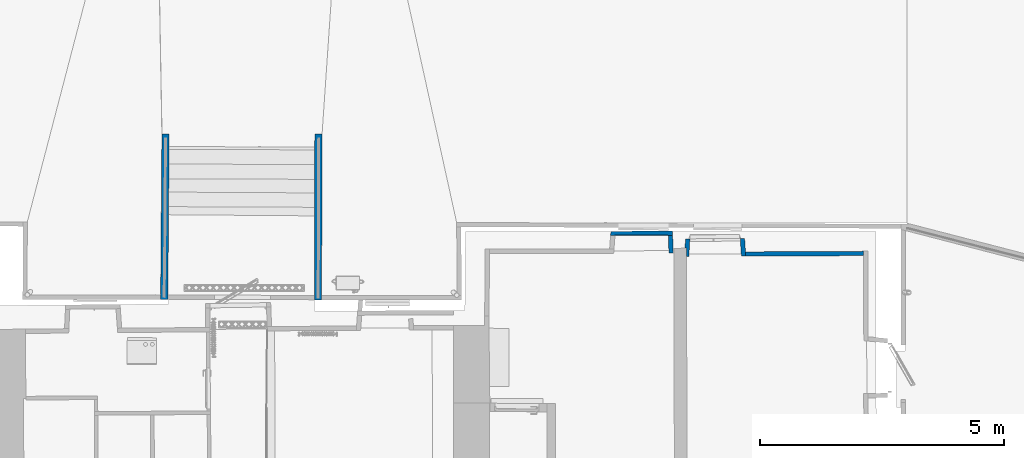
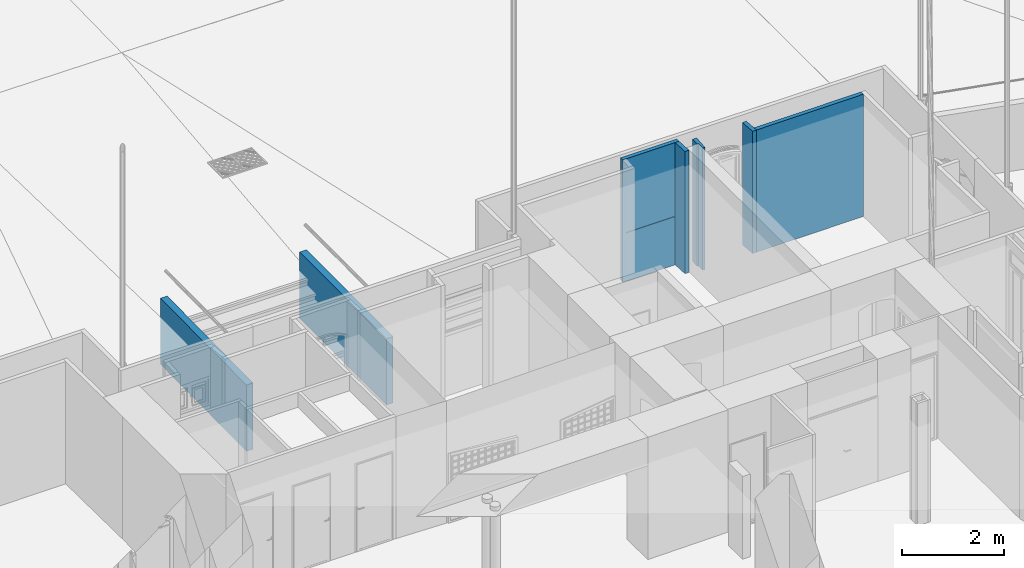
# One storey, part 29 of 133: 7 walls, 1 opening.
"""IFC2X3 building model written with IfcOpenShell, lengths in centimetres."""

from ifc_helpers import new_model, entity, si_unit, converted_unit, direction, frame, origin, origin_with_axes, origin_2d_with_axis, place, context, subcontext, project, spatial, polyline, rectangle, outline, extrude, faceted_brep, shape, material, layer, layer_set, layer_usage, type_object, element, save


model = new_model("IFC2X3")

# Units and contexts
model_context = context("Model", 3, precision=0.0001, world=origin(), true_north=direction((0.225632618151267, 0.974212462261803, 0.0)))
body_context = subcontext(model_context, "Body", "Model", "MODEL_VIEW")
footprint_context = subcontext(model_context, "FootPrint", "Model", "MODEL_VIEW")
profile_context = subcontext(model_context, "Profile", "Model", "MODEL_VIEW")
ifc_project = project(units=[si_unit("LENGTHUNIT", "METRE", prefix="CENTI"), si_unit("AREAUNIT", "SQUARE_METRE", prefix="CENTI"), si_unit("VOLUMEUNIT", "CUBIC_METRE", prefix="CENTI"), converted_unit("PLANEANGLEUNIT", "DEGREE", entity("IfcRatioMeasure", 0.0174532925), si_unit("PLANEANGLEUNIT", "RADIAN"), dimensions=[0, 0, 0, 0, 0, 0, 0])], contexts=[model_context])

# Site, building, storey
site_placement = place(None, origin_with_axes())
site = spatial("IfcSite", under=ifc_project, at=site_placement, Name="Default Site", CompositionType="ELEMENT")
building_placement = place(site_placement, origin_with_axes())
building = spatial("IfcBuilding", under=site, at=building_placement, Name="Default Building", CompositionType="ELEMENT")
storey_placement = place(building_placement, frame((0.0, 0.0, -291.400371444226), z_axis=(0.0, 0.0, 1.0), x_axis=(1.0, 0.0, 0.0)))
storey = spatial("IfcBuildingStorey", under=building, at=storey_placement, Name="Rez-de-Jardin", CompositionType="ELEMENT", Elevation=-291.400371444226)

# Wall, opening
ifc_material = material(Name="<aucun>")
ifc_layer_1 = layer(ifc_material, 9.0)
ifc_layer_set_1 = layer_set([ifc_layer_1], Name="default")
ifc_layer_usage_1 = layer_usage(ifc_layer_set_1, "AXIS2", "POSITIVE", -4.5)
wall_type_1 = type_object("IfcWallType", Name="default 90", PredefinedType="NOTDEFINED", material=ifc_layer_set_1)
wall_1_placement = place(storey_placement, frame((558.069520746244, 745.765818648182, -1.94511073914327e-11), z_axis=(0.0, 0.0, 1.0), x_axis=(0.999998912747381, 0.00147461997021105, 0.0)))
wall_1 = element("IfcWallStandardCase", 1, at=wall_1_placement, inside=storey, type_object=wall_type_1, material=ifc_layer_usage_1, Name="Enveloppe 589720", context=body_context, shape_type="SweptSolid", body=[
    extrude(outline(polyline([(-4.79332700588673, -3.8430022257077), (4.18266062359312, -4.49999999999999), (113.505544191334, -4.49999999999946), (122.498823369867, -4.15225064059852), (122.164260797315, 4.50000000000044), (-4.18266062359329, 4.49999999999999), (-4.79332700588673, -3.8430022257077)])), frame((0.0, 0.0, 8.88178419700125e-14), z_axis=(0.0, 0.0, 1.0), x_axis=(1.0, 0.0, 0.0)), (0.0, 0.0, 1.0), 291.413221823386),
])
opening_placement = place(wall_1_placement, frame((3.19452758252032, 0.0, 115.102026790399), z_axis=(0.0, 0.0, 1.0), x_axis=(-1.0, -3.51454976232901e-15, 0.0)))
cartesian_point_1 = entity("IfcCartesianPoint", [0.0, -8.88178419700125e-14, 113.0])
cartesian_point_2 = entity("IfcCartesianPoint", [-110.311016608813, -8.88178419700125e-14, 113.0])
cartesian_point_3 = entity("IfcCartesianPoint", [-110.311016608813, -4.50000000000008])
element("IfcOpeningElement", 2, at=opening_placement, cuts=wall_1, Name="Baie 78426", ObjectType="Recess", shapes=[
    shape(body_context, "Body", "Brep", [faceted_brep([(-9.30543802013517e-06, 24.4999947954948, 5.18561149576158e-07), (-13.3797407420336, 24.4999947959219, 5.18561149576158e-07), (-13.3797407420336, 24.4999947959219, 113.000000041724), (-9.30543802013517e-06, 24.4999947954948, 113.000000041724), (-13.3797407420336, 24.4999947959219, 117.439002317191), (-13.3797407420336, 24.4999837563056, 5.18561149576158e-07), (-27.1091848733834, 24.4999837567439, 5.18561149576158e-07), (-27.1091848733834, 24.4999837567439, 117.439002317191), (-13.3797407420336, 24.4999837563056, 117.439002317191), (-27.1091848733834, 24.4999837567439, 120.636529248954), (-27.1091848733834, 24.5000115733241, 5.18561149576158e-07), (-41.0733762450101, 24.5000115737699, 5.18561149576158e-07), (-41.0733762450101, 24.5000115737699, 120.636529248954), (-27.1091848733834, 24.5000115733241, 120.636529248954), (-41.0733762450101, 24.5000115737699, 122.565818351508), (-41.0733762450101, 24.5000040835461, 5.18561149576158e-07), (-55.1554895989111, 24.5000040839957, 5.18561149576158e-07), (-55.1554895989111, 24.5000040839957, 122.565818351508), (-41.0733762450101, 24.5000040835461, 122.565818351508), (-55.1554895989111, 24.5000040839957, 123.210710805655), (-55.1554895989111, 24.4999797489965, 5.18561149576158e-07), (-69.2376028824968, 24.499979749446, 5.18561149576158e-07), (-69.2376028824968, 24.499979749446, 122.565818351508), (-55.1554895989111, 24.4999797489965, 122.565818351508), (-55.1554895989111, 24.4999797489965, 123.210710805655), (-69.2376028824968, 24.5000030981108, 5.18561149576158e-07), (-83.2018419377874, 24.5000030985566, 5.18561149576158e-07), (-83.2018419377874, 24.5000030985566, 120.636529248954), (-69.2376028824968, 24.5000030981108, 120.636529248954), (-69.2376028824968, 24.5000030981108, 122.565818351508), (-83.2018419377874, 24.4999956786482, 5.18561149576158e-07), (-96.9312860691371, 24.4999956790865, 5.18561149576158e-07), (-96.9312860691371, 24.4999956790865, 117.439002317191), (-83.2018419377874, 24.4999956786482, 117.439002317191), (-83.2018419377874, 24.4999956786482, 120.636529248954), (-96.9312860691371, 24.5000234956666, 5.18561149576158e-07), (-110.311017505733, 24.5000234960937, 5.18561149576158e-07), (-110.311017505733, 24.5000234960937, 113.000000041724), (-96.9312860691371, 24.5000234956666, 113.000000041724), (-96.9312860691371, 24.5000234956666, 117.439002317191), (-9.30610838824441e-06, 3.50001579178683, 113.000000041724), (-9.30610838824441e-06, 3.50001579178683, 5.18561149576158e-07), (1.8121461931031e-05, 3.50001579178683, 5.18561149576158e-07), (-110.311037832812, 3.49998583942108, 5.18561149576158e-07), (-110.311017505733, 24.5000124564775, 5.18561149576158e-07), (-110.311017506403, 3.49998583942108, 5.18561149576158e-07), (-110.311017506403, 3.49998583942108, 113.000000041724), (-110.311017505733, 24.5000124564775, 113.000000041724), (-110.311035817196, 3.49998583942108, 112.999993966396), (-96.9313046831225, 3.49999687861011, 117.438997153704), (-96.9312863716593, 24.5000234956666, 117.439003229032), (-96.9313053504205, 3.49999687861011, 117.438997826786), (-83.2018614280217, 3.5000167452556, 120.636525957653), (-83.2018422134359, 24.4999956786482, 120.636530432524), (-83.2018618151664, 3.5000167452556, 120.636526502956), (-69.2376227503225, 3.49997648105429, 122.56581502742), (-69.2376028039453, 24.5000030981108, 122.56581778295), (-69.2376231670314, 3.49997648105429, 122.565817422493), (-55.1555099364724, 3.50000081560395, 123.210712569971), (-55.1554897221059, 24.4999797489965, 123.210713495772), (-55.1555098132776, 3.50000081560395, 123.210711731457), (-41.0733966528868, 3.49997746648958, 122.565816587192), (-41.0733763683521, 24.5000040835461, 122.565815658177), (-41.0733961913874, 3.49997746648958, 122.565821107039), (-27.1091570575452, 3.49998488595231, 120.636532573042), (-27.1091839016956, 24.5000115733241, 120.636536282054), (-27.109158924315, 3.49998488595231, 120.636523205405), (-13.3797150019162, 3.5000047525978, 117.438995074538), (-13.379741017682, 24.4999837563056, 117.439001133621), (-13.3797160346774, 3.5000047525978, 117.438994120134), (1.50993960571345e-05, 3.50001579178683, 112.999990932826), (-9.60796018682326e-06, 24.4999947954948, 112.999999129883), (-13.3797133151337, 3.5000047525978, 117.439002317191), (-27.1091575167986, 3.50000475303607, 120.636529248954), (-41.0733965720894, 3.50000475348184, 122.565818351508), (-55.155509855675, 3.50000475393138, 123.210710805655), (-69.237623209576, 3.50000475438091, 122.565818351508), (-83.2018621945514, 3.50000475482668, 120.636529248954), (-96.9313063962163, 3.50000475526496, 117.439002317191), (-110.311037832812, 3.50000475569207, 113.000000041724), (-110.311037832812, 3.50000475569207, 5.18561149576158e-07), (1.81214619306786e-05, 3.50000475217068, 5.18561149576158e-07), (1.81214619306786e-05, 3.50000475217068, 113.000000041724)], [[[0, 1, 2, 3]], [[3, 2, 4]], [[5, 6, 7, 8]], [[8, 7, 9]], [[10, 11, 12, 13]], [[13, 12, 14]], [[15, 16, 17, 18]], [[18, 17, 19]], [[20, 21, 22, 23]], [[23, 22, 24]], [[25, 26, 27, 28]], [[28, 27, 29]], [[30, 31, 32, 33]], [[33, 32, 34]], [[35, 36, 37, 38]], [[38, 37, 39]], [[3, 40, 41, 0]], [[0, 42, 43, 44]], [[44, 45, 46, 47]], [[47, 48, 49, 50]], [[39, 51, 52, 53]], [[34, 54, 55, 56]], [[29, 57, 58, 59]], [[24, 60, 61, 62]], [[18, 63, 64, 65]], [[13, 66, 67, 68]], [[8, 69, 70, 71]], [[72, 73, 74, 75, 76, 77, 78, 79, 80, 81, 82]]])]),
    shape(profile_context, "Profile", "GeometricCurveSet", [entity("IfcGeometricCurveSet", [entity("IfcCompositeCurve", [entity("IfcCompositeCurveSegment", "CONTINUOUS", True, entity("IfcPolyline", [cartesian_point_1, entity("IfcCartesianPoint", [0.0, -8.88178419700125e-14, -2.22044604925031e-14]), entity("IfcCartesianPoint", [-110.311016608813, -8.88178419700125e-14, -2.22044604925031e-14]), cartesian_point_2])), entity("IfcCompositeCurveSegment", "CONTINUOUS", True, entity("IfcTrimmedCurve", entity("IfcCircle", entity("IfcAxis2Placement3D", entity("IfcCartesianPoint", [-55.1555083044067, 0.0, -30.8622344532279]), entity("IfcDirection", [0.0, 1.0, -8.6984970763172e-15]), entity("IfcDirection", [1.0, 0.0, 0.0])), 154.072945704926), [cartesian_point_2], [cartesian_point_1], True, "CARTESIAN"))], False)])]),
    shape(footprint_context, "FootPrint", "GeometricCurveSet", [entity("IfcGeometricCurveSet", [entity("IfcPolyline", [cartesian_point_3, entity("IfcCartesianPoint", [0.0, -4.50000000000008]), entity("IfcCartesianPoint", [0.0, 4.4999999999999]), entity("IfcCartesianPoint", [-110.311016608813, 4.49999999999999]), cartesian_point_3])])]),
])

# Walls
ifc_layer_usage_2 = layer_usage(ifc_layer_set_1, "AXIS2", "POSITIVE", -4.5)
wall_2_placement = place(storey_placement, frame((709.404934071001, 698.726264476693, -1.94511073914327e-11), z_axis=(0.0, 0.0, 1.0), x_axis=(0.0613919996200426, 0.998113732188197, 0.0)))
element("IfcWallStandardCase", 3, at=wall_2_placement, inside=storey, type_object=wall_type_1, material=ifc_layer_usage_2, Name="Enveloppe 589975", context=body_context, shape_type="SweptSolid", body=[
    extrude(outline(polyline([(16.7931576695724, 4.50000000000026), (16.7931576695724, 1.38505617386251), (-1.77635683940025e-13, 0.310418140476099), (-1.77635683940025e-13, -4.50000000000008), (36.0799113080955, -4.49999999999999), (35.4799113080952, 4.50000000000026), (16.7931576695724, 4.50000000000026)])), frame((0.0, 0.0, 1.33226762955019e-13), z_axis=(0.0, 0.0, 1.0), x_axis=(1.0, 0.0, 0.0)), (0.0, 0.0, 1.0), 291.413221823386),
])
ifc_layer_usage_3 = layer_usage(ifc_layer_set_1, "AXIS2", "POSITIVE", -4.5)
wall_3_placement = place(storey_placement, frame((677.523077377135, 705.615798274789, -1.94511073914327e-11), z_axis=(0.0, 0.0, 1.0), x_axis=(-0.0401122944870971, 0.999195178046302, 0.0)))
element("IfcWallStandardCase", 4, at=wall_3_placement, inside=storey, type_object=wall_type_1, material=ifc_layer_usage_3, Name="Enveloppe 589719", context=body_context, shape_type="SweptSolid", body=[
    extrude(rectangle(XDim=9.00000000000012, YDim=36.0269033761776, at=origin_2d_with_axis()), frame((18.0134516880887, -8.88178419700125e-14, 8.88178419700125e-14), z_axis=(0.0, 0.0, 1.0), x_axis=(9.46465128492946e-15, -1.0, 0.0)), (0.0, 0.0, 1.0), 291.413221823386),
])
ifc_layer_usage_4 = layer_usage(ifc_layer_set_1, "AXIS2", "POSITIVE", -4.5)
wall_4_placement = place(storey_placement, frame((821.746974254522, 703.499941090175, -1.94511073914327e-11), z_axis=(0.0, 0.0, 1.0), x_axis=(0.999986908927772, 0.00511683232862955, 0.0)))
element("IfcWallStandardCase", 5, at=wall_4_placement, inside=storey, type_object=wall_type_1, material=ifc_layer_usage_4, Name="Enveloppe 588678", context=body_context, shape_type="SweptSolid", body=[
    extrude(outline(polyline([(8.4740070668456, 4.50000000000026), (9.01413176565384, -4.49999999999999), (250.532606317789, -4.4999999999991), (250.541996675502, 4.50000000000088), (8.4740070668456, 4.50000000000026)])), frame((0.0, 0.0, 1.33226762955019e-13), z_axis=(0.0, 0.0, 1.0), x_axis=(1.0, 0.0, 0.0)), (0.0, 0.0, 1.0), 291.413221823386),
])
ifc_layer_usage_5 = layer_usage(ifc_layer_set_1, "AXIS2", "POSITIVE", -4.5)
wall_5_placement = place(storey_placement, frame((826.258144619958, 699.296755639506, -1.94511073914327e-11), z_axis=(0.0, 0.0, 1.0), x_axis=(-0.0650129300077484, 0.997884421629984, 0.0)))
element("IfcWallStandardCase", 6, at=wall_5_placement, inside=storey, type_object=wall_type_1, material=ifc_layer_usage_5, Name="Enveloppe 588365", context=body_context, shape_type="SweptSolid", body=[
    extrude(outline(polyline([(36.0647269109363, 4.49999999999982), (-0.00421692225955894, 4.49999999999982), (-0.54434162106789, -4.49999999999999), (36.0647269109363, -4.50000000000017), (36.0647269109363, 4.49999999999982)])), frame((0.0, 0.0, 4.44089209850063e-14), z_axis=(0.0, 0.0, 1.0), x_axis=(1.0, 0.0, 0.0)), (0.0, 0.0, 1.0), 291.413221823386),
])
ifc_layer_2 = layer(ifc_material, 15.0)
ifc_layer_set_2 = layer_set([ifc_layer_2], Name="default")
ifc_layer_usage_6 = layer_usage(ifc_layer_set_2, "AXIS2", "POSITIVE", -7.5)
wall_type_2 = type_object("IfcWallType", Name="default 150", PredefinedType="NOTDEFINED", material=ifc_layer_set_2)
wall_6_placement = place(storey_placement, frame((-47.4894028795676, 617.916405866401, -1.94511073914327e-11), z_axis=(0.0, 0.0, 1.0), x_axis=(0.00294412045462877, 0.999995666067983, 0.0)))
element("IfcWallStandardCase", 7, at=wall_6_placement, inside=storey, type_object=wall_type_2, material=ifc_layer_usage_6, Name="Enveloppe 92070", context=body_context, shape_type="SweptSolid", body=[
    extrude(rectangle(XDim=340.663453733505, YDim=15.0000019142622, at=origin_2d_with_axis()), frame((162.07084697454, -6.10622663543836e-13, 1.33226762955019e-13), z_axis=(0.0, 0.0, 1.0), x_axis=(1.0, -3.76565098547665e-15, 0.0)), (0.0, 0.0, 1.0), 157.900371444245),
])
ifc_layer_usage_7 = layer_usage(ifc_layer_set_2, "AXIS2", "POSITIVE", -7.5)
wall_7_placement = place(storey_placement, frame((-362.984407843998, 619.038968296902, -1.94511073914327e-11), z_axis=(0.0, 0.0, 1.0), x_axis=(0.00785237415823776, 0.999969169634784, 0.0)))
element("IfcWallStandardCase", 8, at=wall_7_placement, inside=storey, type_object=wall_type_2, material=ifc_layer_usage_7, Name="Enveloppe 92111", context=body_context, shape_type="SweptSolid", body=[
    extrude(outline(polyline([(-9.10000236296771, 7.50000000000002), (-8.99947264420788, -7.60920000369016), (-8.57292108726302, -7.60636192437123), (-8.57375629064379, -7.50000203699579), (330.936122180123, -7.49999999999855), (330.936122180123, 7.50000000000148), (-9.10000236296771, 7.50000000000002)])), frame((0.0, 0.0, 8.88178419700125e-14), z_axis=(0.0, 0.0, 1.0), x_axis=(1.0, 0.0, 0.0)), (0.0, 0.0, 1.0), 157.900371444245),
])

save(model, "model.ifc")
